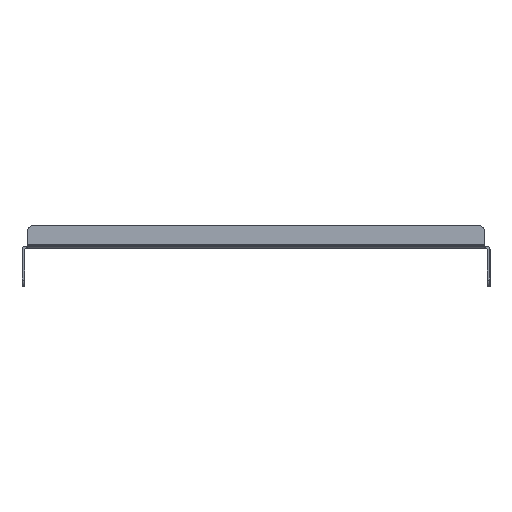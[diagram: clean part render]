
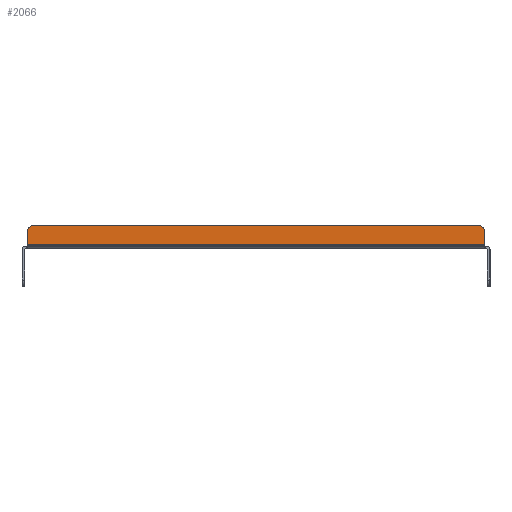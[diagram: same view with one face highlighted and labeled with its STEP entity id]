
A CAD part, left-side view. The second image highlights one B-rep face of the part: STEP entity #2066.
In plain terms, the highlighted planar face has unit normal (-1, 0, 0).
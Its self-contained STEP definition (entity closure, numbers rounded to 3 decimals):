
#35 = EDGE_CURVE ( 'NONE', #289, #1750, #1445, .T. ) ;
#81 = LINE ( 'NONE', #1908, #1707 ) ;
#186 = CARTESIAN_POINT ( 'NONE',  ( -349., -173.25, 13. ) ) ;
#187 = CARTESIAN_POINT ( 'NONE',  ( -349., -178.25, 2.5 ) ) ;
#217 = ORIENTED_EDGE ( 'NONE', *, *, #645, .T. ) ;
#265 = CARTESIAN_POINT ( 'NONE',  ( -349., -196.423, 18. ) ) ;
#289 = VERTEX_POINT ( 'NONE', #886 ) ;
#310 = CARTESIAN_POINT ( 'NONE',  ( -349., -196.423, 0. ) ) ;
#360 = VECTOR ( 'NONE', #2132, 1000. ) ;
#413 = DIRECTION ( 'NONE',  ( 0., 0., 1. ) ) ;
#433 = CIRCLE ( 'NONE', #2475, 5. ) ;
#483 = DIRECTION ( 'NONE',  ( 0., 1., 0. ) ) ;
#487 = CARTESIAN_POINT ( 'NONE',  ( -349., 178.25, 13. ) ) ;
#532 = DIRECTION ( 'NONE',  ( 0., 0., 1. ) ) ;
#611 = FACE_OUTER_BOUND ( 'NONE', #1534, .T. ) ;
#645 = EDGE_CURVE ( 'NONE', #1050, #1080, #1984, .T. ) ;
#723 = ORIENTED_EDGE ( 'NONE', *, *, #1011, .T. ) ;
#765 = CARTESIAN_POINT ( 'NONE',  ( -349., 173.25, 13. ) ) ;
#770 = DIRECTION ( 'NONE',  ( 0., 0., 1. ) ) ;
#812 = ORIENTED_EDGE ( 'NONE', *, *, #2416, .T. ) ;
#886 = CARTESIAN_POINT ( 'NONE',  ( -349., 178.25, 2.5 ) ) ;
#930 = VECTOR ( 'NONE', #770, 1000. ) ;
#971 = ORIENTED_EDGE ( 'NONE', *, *, #1481, .T. ) ;
#995 = DIRECTION ( 'NONE',  ( 0., 0., 1. ) ) ;
#1011 = EDGE_CURVE ( 'NONE', #1080, #1359, #2636, .T. ) ;
#1050 = VERTEX_POINT ( 'NONE', #1815 ) ;
#1080 = VERTEX_POINT ( 'NONE', #1686 ) ;
#1242 = AXIS2_PLACEMENT_3D ( 'NONE', #186, #1724, #413 ) ;
#1347 = ORIENTED_EDGE ( 'NONE', *, *, #2585, .F. ) ;
#1359 = VERTEX_POINT ( 'NONE', #2476 ) ;
#1445 = LINE ( 'NONE', #2313, #930 ) ;
#1457 = PLANE ( 'NONE',  #2473 ) ;
#1465 = VECTOR ( 'NONE', #483, 1000. ) ;
#1481 = EDGE_CURVE ( 'NONE', #289, #1897, #2563, .T. ) ;
#1534 = EDGE_LOOP ( 'NONE', ( #1347, #217, #723, #812, #2731, #971 ) ) ;
#1686 = CARTESIAN_POINT ( 'NONE',  ( -349., -173.25, 18. ) ) ;
#1707 = VECTOR ( 'NONE', #2789, 1000. ) ;
#1724 = DIRECTION ( 'NONE',  ( -1., 0., 0. ) ) ;
#1750 = VERTEX_POINT ( 'NONE', #487 ) ;
#1815 = CARTESIAN_POINT ( 'NONE',  ( -349., -178.25, 13. ) ) ;
#1849 = DIRECTION ( 'NONE',  ( -1., 0., 0. ) ) ;
#1897 = VERTEX_POINT ( 'NONE', #187 ) ;
#1899 = CARTESIAN_POINT ( 'NONE',  ( -349., -196.423, 2.5 ) ) ;
#1908 = CARTESIAN_POINT ( 'NONE',  ( -349., -178.25, 0. ) ) ;
#1984 = CIRCLE ( 'NONE', #1242, 5. ) ;
#2066 = ADVANCED_FACE ( 'NONE', ( #611 ), #1457, .T. ) ;
#2132 = DIRECTION ( 'NONE',  ( 0., -1., 0. ) ) ;
#2310 = DIRECTION ( 'NONE',  ( -1., 0., 0. ) ) ;
#2313 = CARTESIAN_POINT ( 'NONE',  ( -349., 178.25, 0. ) ) ;
#2416 = EDGE_CURVE ( 'NONE', #1359, #1750, #433, .T. ) ;
#2473 = AXIS2_PLACEMENT_3D ( 'NONE', #310, #1849, #532 ) ;
#2475 = AXIS2_PLACEMENT_3D ( 'NONE', #765, #2310, #995 ) ;
#2476 = CARTESIAN_POINT ( 'NONE',  ( -349., 173.25, 18. ) ) ;
#2563 = LINE ( 'NONE', #1899, #360 ) ;
#2585 = EDGE_CURVE ( 'NONE', #1050, #1897, #81, .T. ) ;
#2636 = LINE ( 'NONE', #265, #1465 ) ;
#2731 = ORIENTED_EDGE ( 'NONE', *, *, #35, .F. ) ;
#2789 = DIRECTION ( 'NONE',  ( 0., 0., -1. ) ) ;
